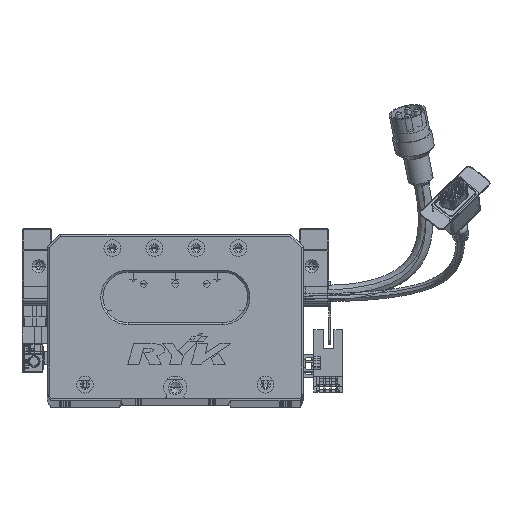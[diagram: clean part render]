
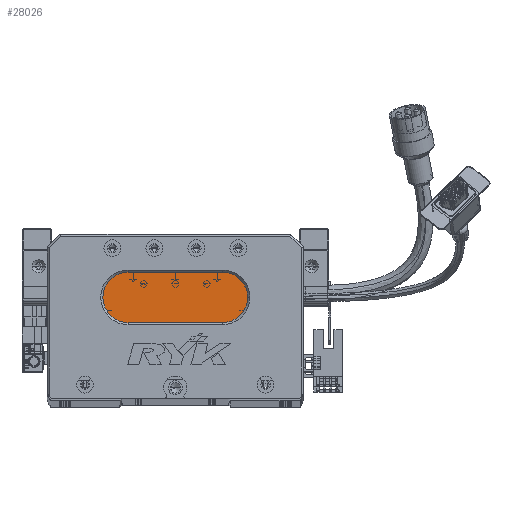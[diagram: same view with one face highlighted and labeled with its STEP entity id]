
A CAD part, top view. The second image highlights one B-rep face of the part: STEP entity #28026.
In plain terms, the highlighted planar face has unit normal (0, 0, 1) as drawn and (0, 0, -1) by its records, which use the part's own axes.
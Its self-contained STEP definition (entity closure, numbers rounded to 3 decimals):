
#1428 = ORIENTED_EDGE ( 'NONE', *, *, #38638, .T. ) ;
#2109 = DIRECTION ( 'NONE',  ( -1., 0., 0. ) ) ;
#3655 = DIRECTION ( 'NONE',  ( 0., 0., -1. ) ) ;
#4017 = DIRECTION ( 'NONE',  ( -1., 0., 0. ) ) ;
#5997 = EDGE_LOOP ( 'NONE', ( #50260, #32039, #1428, #7131, #9306 ) ) ;
#7131 = ORIENTED_EDGE ( 'NONE', *, *, #75492, .T. ) ;
#9306 = ORIENTED_EDGE ( 'NONE', *, *, #39474, .T. ) ;
#9791 = DIRECTION ( 'NONE',  ( -1., 0., 0. ) ) ;
#9837 = VERTEX_POINT ( 'NONE', #86192 ) ;
#12710 = DIRECTION ( 'NONE',  ( 1., 0., 0. ) ) ;
#14367 = DIRECTION ( 'NONE',  ( -1., 0., 0. ) ) ;
#18079 = LINE ( 'NONE', #20736, #103060 ) ;
#19220 = VERTEX_POINT ( 'NONE', #106259 ) ;
#19989 = FACE_OUTER_BOUND ( 'NONE', #5997, .T. ) ;
#20736 = CARTESIAN_POINT ( 'NONE',  ( 83.5, 60., 13. ) ) ;
#24877 = CARTESIAN_POINT ( 'NONE',  ( 83.5, 36., 13. ) ) ;
#27294 = DIRECTION ( 'NONE',  ( 0., 0., -1. ) ) ;
#28026 = ADVANCED_FACE ( 'NONE', ( #19989 ), #69350, .T. ) ;
#28214 = VERTEX_POINT ( 'NONE', #48842 ) ;
#29672 = CIRCLE ( 'NONE', #97167, 12. ) ;
#32039 = ORIENTED_EDGE ( 'NONE', *, *, #62229, .T. ) ;
#35716 = VERTEX_POINT ( 'NONE', #100771 ) ;
#38638 = EDGE_CURVE ( 'NONE', #35716, #28214, #107191, .T. ) ;
#39474 = EDGE_CURVE ( 'NONE', #19220, #9837, #18079, .T. ) ;
#39670 = AXIS2_PLACEMENT_3D ( 'NONE', #102519, #27294, #2109 ) ;
#40261 = DIRECTION ( 'NONE',  ( -1., 0., 0. ) ) ;
#47939 = DIRECTION ( 'NONE',  ( 0., 0., -1. ) ) ;
#48842 = CARTESIAN_POINT ( 'NONE',  ( 26.5, 48., 13. ) ) ;
#50260 = ORIENTED_EDGE ( 'NONE', *, *, #50479, .T. ) ;
#50479 = EDGE_CURVE ( 'NONE', #9837, #70569, #78964, .T. ) ;
#52876 = LINE ( 'NONE', #100749, #72457 ) ;
#57817 = CARTESIAN_POINT ( 'NONE',  ( 38.5, 48., 13. ) ) ;
#62229 = EDGE_CURVE ( 'NONE', #70569, #35716, #52876, .T. ) ;
#69350 = PLANE ( 'NONE',  #77311 ) ;
#70569 = VERTEX_POINT ( 'NONE', #24877 ) ;
#72457 = VECTOR ( 'NONE', #9791, 1000. ) ;
#75492 = EDGE_CURVE ( 'NONE', #28214, #19220, #29672, .T. ) ;
#77311 = AXIS2_PLACEMENT_3D ( 'NONE', #95334, #3655, #4017 ) ;
#78964 = CIRCLE ( 'NONE', #39670, 12. ) ;
#82551 = DIRECTION ( 'NONE',  ( 0., 0., -1. ) ) ;
#83256 = CARTESIAN_POINT ( 'NONE',  ( 38.5, 48., 13. ) ) ;
#85664 = AXIS2_PLACEMENT_3D ( 'NONE', #57817, #47939, #14367 ) ;
#86192 = CARTESIAN_POINT ( 'NONE',  ( 83.5, 60., 13. ) ) ;
#95334 = CARTESIAN_POINT ( 'NONE',  ( 83.5, 48., 13. ) ) ;
#97167 = AXIS2_PLACEMENT_3D ( 'NONE', #83256, #82551, #40261 ) ;
#100749 = CARTESIAN_POINT ( 'NONE',  ( 83.5, 36., 13. ) ) ;
#100771 = CARTESIAN_POINT ( 'NONE',  ( 38.5, 36., 13. ) ) ;
#102519 = CARTESIAN_POINT ( 'NONE',  ( 83.5, 48., 13. ) ) ;
#103060 = VECTOR ( 'NONE', #12710, 1000. ) ;
#106259 = CARTESIAN_POINT ( 'NONE',  ( 38.5, 60., 13. ) ) ;
#107191 = CIRCLE ( 'NONE', #85664, 12. ) ;
